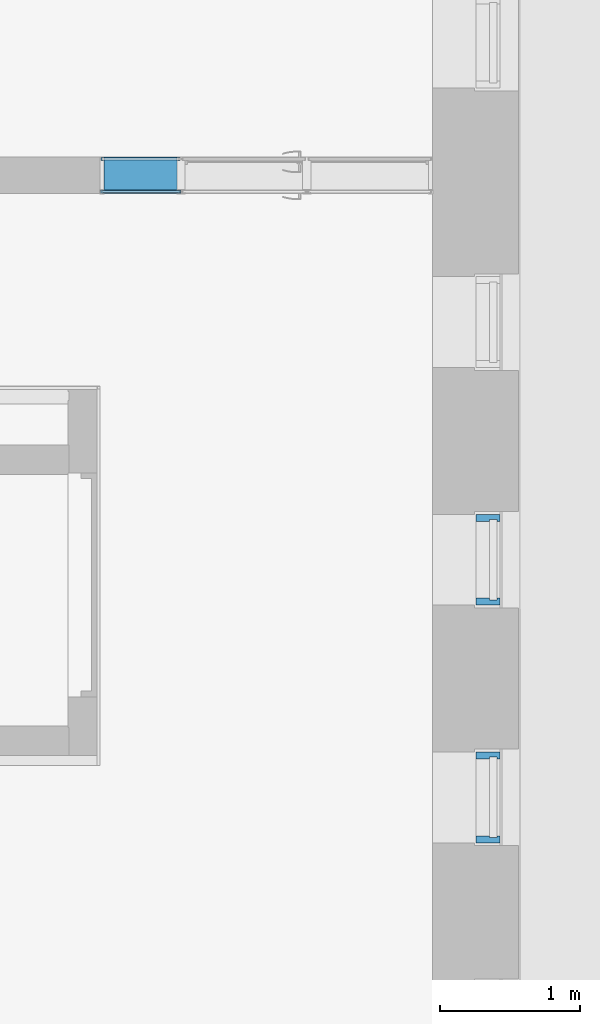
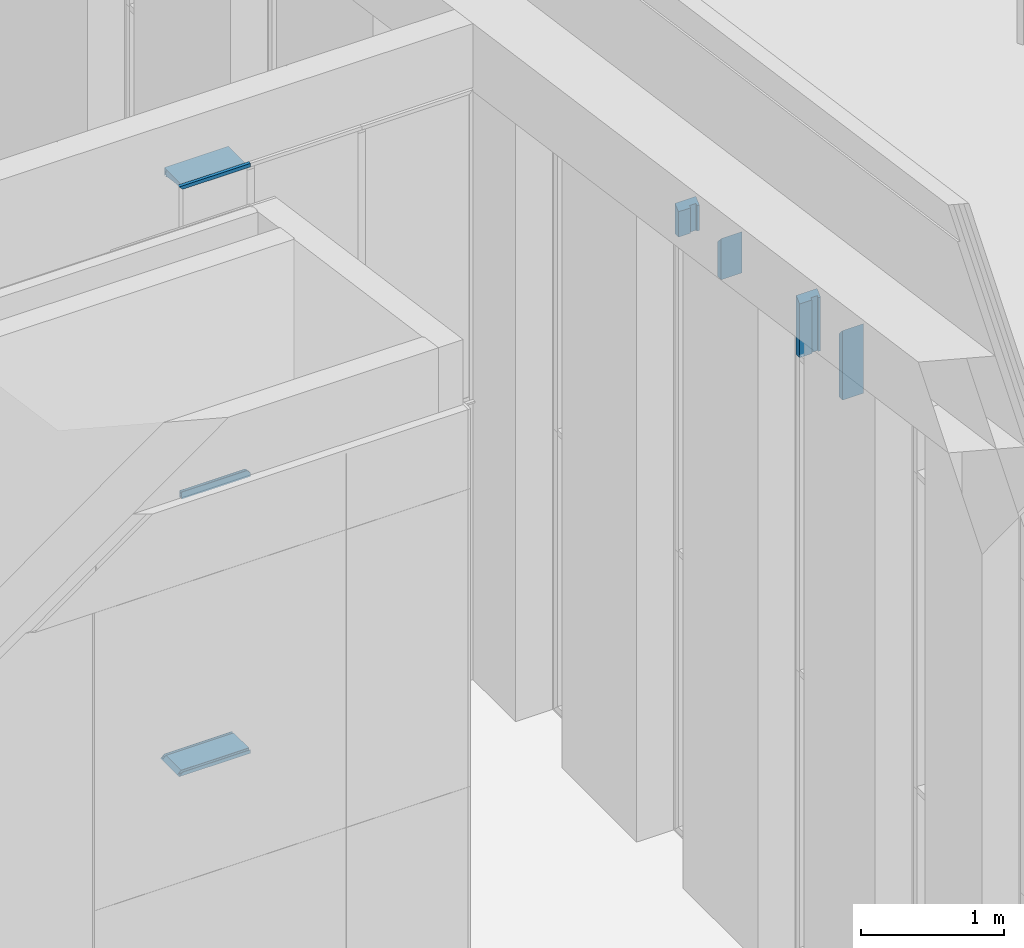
# One storey, part 90 of 246: 9 members, 4 elements without a shape of their own.
"""IFC2X3 building model written with IfcOpenShell, lengths in millimetres."""

from ifc_helpers import new_model, entity, si_unit, converted_unit, derived_unit, money_unit, direction, frame, origin_with_axes, place, context, subcontext, project, spatial, faceted_brep, material, material_list, type_object, element, aggregate, save


model = new_model("IFC2X3")

# Units and contexts
model_context = context("Model", 3, precision=0.01, world=origin_with_axes(), true_north=direction((0.0, 1.0)))
body_context = subcontext(model_context, "Body", "Model", "MODEL_VIEW")
ifc_project = project(units=[si_unit("LENGTHUNIT", "METRE", prefix="MILLI"), si_unit("AREAUNIT", "SQUARE_METRE"), si_unit("VOLUMEUNIT", "CUBIC_METRE"), converted_unit("PLANEANGLEUNIT", "DEGREE", entity("IfcPlaneAngleMeasure", 0.0174532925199), si_unit("PLANEANGLEUNIT", "RADIAN"), dimensions=[0, 0, 0, 0, 0, 0, 0]), si_unit("SOLIDANGLEUNIT", "STERADIAN"), money_unit("EUR"), converted_unit("TIMEUNIT", "Year", entity("IfcTimeMeasure", 31556926.0), si_unit("TIMEUNIT", "SECOND"), dimensions=[0, 0, 1, 0, 0, 0, 0]), si_unit("MASSUNIT", "GRAM", prefix="KILO"), si_unit("THERMODYNAMICTEMPERATUREUNIT", "DEGREE_CELSIUS"), si_unit("LUMINOUSINTENSITYUNIT", "LUMEN"), si_unit("ENERGYUNIT", "JOULE", prefix="MEGA"), derived_unit("THERMALCONDUCTANCEUNIT", [(si_unit("POWERUNIT", "WATT"), 1), (si_unit("LENGTHUNIT", "METRE"), -1), (si_unit("THERMODYNAMICTEMPERATUREUNIT", "KELVIN"), -1)]), derived_unit("SPECIFICHEATCAPACITYUNIT", [(si_unit("ENERGYUNIT", "JOULE"), 1), (si_unit("MASSUNIT", "GRAM", prefix="KILO"), -1), (si_unit("THERMODYNAMICTEMPERATUREUNIT", "KELVIN"), -1)]), derived_unit("MASSDENSITYUNIT", [(si_unit("MASSUNIT", "GRAM", prefix="KILO"), 1), (si_unit("VOLUMEUNIT", "CUBIC_METRE"), -1)])], contexts=[model_context])

# Site, building, storey
site_placement = place(None, origin_with_axes())
site = spatial("IfcSite", under=ifc_project, at=site_placement, Name="L.Koidula tn 11b", CompositionType="ELEMENT")
building_placement = place(site_placement, origin_with_axes())
building = spatial("IfcBuilding", under=site, at=building_placement, Name="Rakvere Riigigümnaasium", CompositionType="ELEMENT")
storey_placement = place(building_placement, origin_with_axes())
storey = spatial("IfcBuildingStorey", under=building, at=storey_placement, Name="1.korrus 0,00", CompositionType="ELEMENT", Elevation=0.0)

# Curtain wall, members
curtain_wall_type = type_object("IfcCurtainWallType", Name="Curtain Wall Type", PredefinedType="NOTDEFINED")
curtain_wall_1_placement = place(storey_placement, frame((47433.9999935, 57020.45466, -7.96066081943e-05), z_axis=(0.0, 0.0, 1.0), x_axis=(1.0, 0.0, 0.0)))
curtain_wall_1 = element("IfcCurtainWall", 1, at=curtain_wall_1_placement, inside=storey, type_object=curtain_wall_type, Name="KLF-07-08")
ifc_material_1 = material(Name="Alumiiniumprofiil (RAL 7021)")
member_type_1 = type_object("IfcMemberType", Name="Boundary Frame 50 x 170", PredefinedType="MULLION")
member_1_placement = place(curtain_wall_1_placement, frame((0.0, -324.999990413, 5100.00007961), z_axis=(0.0, 0.0, 1.0), x_axis=(0.0, 1.0, 0.0)))
member_1 = element("IfcMember", 2, at=member_1_placement, type_object=member_type_1, material=ifc_material_1, Name="KLF-07-79-Profiilid", ObjectType="MULLION", context=body_context, shape_type="Brep", body=[
    faceted_brep([(37.0, 26.0, 553.410045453), (50.0, 26.0, 538.428095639), (50.0, 124.0, 538.428095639), (0.0, 124.0, 596.05097954), (0.0, -46.0, 596.05097954), (50.0, -46.0, 538.428095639), (50.0, -26.0, 538.428095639), (37.0, -26.0, 553.410045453), (37.0, 26.0, -1.52750079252e-06), (50.0, 26.0, -1.52750079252e-06), (50.0, 124.0, -1.52750079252e-06), (0.0, 124.0, -1.52750079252e-06), (0.0, -46.0, -1.52750079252e-06), (50.0, -46.0, -1.52750079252e-06), (50.0, -26.0, -1.52750079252e-06), (37.0, -26.0, -1.52750079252e-06)], [[[0, 1, 2, 3, 4, 5, 6, 7]], [[0, 8, 9, 1]], [[9, 10, 2, 1]], [[10, 11, 3, 2]], [[11, 12, 4, 3]], [[12, 13, 5, 4]], [[6, 5, 13, 14]], [[14, 15, 7, 6]], [[7, 15, 8, 0]], [[8, 15, 14, 13, 12, 11, 10, 9]]]),
])
member_2_placement = place(curtain_wall_1_placement, frame((0.0, 324.99999492, 5603.50833327), z_axis=(0.0, -1.79021235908e-08, -1.0), x_axis=(0.0, -1.0, 1.79021235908e-08)))
member_2 = element("IfcMember", 3, at=member_2_placement, type_object=member_type_1, material=ifc_material_1, Name="KLF-07-81-Profiilid", ObjectType="MULLION", context=body_context, shape_type="Brep", body=[
    faceted_brep([(36.9999909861, 26.0, 503.508254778), (49.9999909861, 26.0, 503.50825501), (49.9999909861, 124.0, 503.50825501), (-9.01386698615e-06, 124.0, 503.508254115), (-9.01386698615e-06, -46.0, 503.508254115), (49.9999909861, -46.0, 503.50825501), (49.9999909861, -26.0, 503.50825501), (36.9999909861, -26.0, 503.508254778), (36.9999994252, 26.0, 32.1053016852), (49.9999992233, 26.0, 43.3855428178), (49.9999992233, 124.0, 43.3855428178), (0.0, 124.0, 0.0), (0.0, -46.0, 0.0), (49.9999992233, -46.0, 43.3855428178), (49.9999992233, -26.0, 43.3855428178), (36.9999994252, -26.0, 32.1053016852)], [[[0, 1, 2, 3, 4, 5, 6, 7]], [[0, 8, 9, 1]], [[9, 10, 2, 1]], [[2, 10, 11, 3]], [[3, 11, 12, 4]], [[4, 12, 13, 5]], [[6, 5, 13, 14]], [[14, 15, 7, 6]], [[7, 15, 8, 0]], [[8, 15, 14, 13, 12, 11, 10, 9]]]),
])
aggregate(curtain_wall_1, [member_1, member_2])

curtain_wall_2_placement = place(storey_placement, frame((47433.9999935, 58720.4546292, -7.96830551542e-05), z_axis=(0.0, 0.0, 1.0), x_axis=(1.0, 0.0, 0.0)))
curtain_wall_2 = element("IfcCurtainWall", 4, at=curtain_wall_2_placement, inside=storey, type_object=curtain_wall_type, Name="KLF-07-09")
member_3_placement = place(curtain_wall_2_placement, frame((0.0, -324.99995475, 5100.00007968), z_axis=(0.0, -9.8127504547e-09, 1.0), x_axis=(0.0, 1.0, 9.8127504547e-09)))
member_3 = element("IfcMember", 5, at=member_3_placement, type_object=member_type_1, material=ifc_material_1, Name="KLF-07-80_Profiilid", ObjectType="MULLION", context=body_context, shape_type="Brep", body=[
    faceted_brep([(37.0000030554, 26.0, 311.375186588), (50.0000029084, 26.0, 296.393236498), (50.0000029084, 124.0, 296.393236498), (3.47387185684e-06, 124.0, 354.016121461), (3.47387185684e-06, -46.0, 354.016121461), (50.0000029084, -46.0, 296.393236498), (50.0000029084, -26.0, 296.393236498), (37.0000030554, -26.0, 311.375186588), (37.0, 26.0, -2.23024709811e-06), (50.0, 26.0, -2.35781261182e-06), (50.0, 124.0, -2.35781261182e-06), (0.0, 124.0, -1.86717485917e-06), (0.0, -46.0, -1.86717485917e-06), (50.0, -46.0, -2.35781261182e-06), (50.0, -26.0, -2.35781261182e-06), (37.0, -26.0, -2.23024709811e-06)], [[[0, 1, 2, 3, 4, 5, 6, 7]], [[0, 8, 9, 1]], [[9, 10, 2, 1]], [[10, 11, 3, 2]], [[11, 12, 4, 3]], [[12, 13, 5, 4]], [[6, 5, 13, 14]], [[14, 15, 7, 6]], [[7, 15, 8, 0]], [[8, 15, 14, 13, 12, 11, 10, 9]]]),
])
member_4_placement = place(curtain_wall_2_placement, frame((0.0, 325.000027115, 5361.47347527), z_axis=(0.0, 5.81871425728e-08, -1.0), x_axis=(0.0, -1.0, -5.81871425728e-08)))
member_4 = element("IfcMember", 6, at=member_4_placement, type_object=member_type_1, material=ifc_material_1, Name="KLF-07-82_Profiilid", ObjectType="MULLION", context=body_context, shape_type="Brep", body=[
    faceted_brep([(37.0000152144, 26.0, 261.47339489), (50.0000152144, 26.0, 261.473394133), (50.0000152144, 124.0, 261.473394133), (1.52143897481e-05, 124.0, 261.473397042), (1.52143897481e-05, -46.0, 261.473397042), (50.0000152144, -46.0, 261.473394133), (50.0000152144, -26.0, 261.473394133), (37.0000152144, -26.0, 261.47339489), (37.0000018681, 26.0, 32.1052964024), (50.0000025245, 26.0, 43.3855356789), (50.0000025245, 124.0, 43.3855356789), (0.0, 124.0, 0.0), (0.0, -46.0, 0.0), (50.0000025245, -46.0, 43.3855356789), (50.0000025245, -26.0, 43.3855356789), (37.0000018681, -26.0, 32.1052964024)], [[[0, 1, 2, 3, 4, 5, 6, 7]], [[0, 8, 9, 1]], [[9, 10, 2, 1]], [[2, 10, 11, 3]], [[3, 11, 12, 4]], [[4, 12, 13, 5]], [[6, 5, 13, 14]], [[14, 15, 7, 6]], [[7, 15, 8, 0]], [[8, 15, 14, 13, 12, 11, 10, 9]]]),
])
aggregate(curtain_wall_2, [member_3, member_4])

curtain_wall_3_placement = place(storey_placement, frame((46459.9999921, 61346.4546496, -4.47035262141e-05), z_axis=(0.0, 0.0, 1.0), x_axis=(1.0, 0.0, 0.0)))
curtain_wall_3 = element("IfcCurtainWall", 7, at=curtain_wall_3_placement, inside=storey, type_object=curtain_wall_type, Name="SKLF-04")
ifc_material_2 = material(Name="Klaasvill")
ifc_material_3 = material(Name="Teras RAL7012")
ifc_material_list_1 = material_list([ifc_material_2, ifc_material_3])
member_type_2 = type_object("IfcMemberType", Name="Siseklaasfassaad-Doubleline-Klaaside vahe-2_60x26 60 x 20", PredefinedType="MULLION")
member_5_placement = place(curtain_wall_3_placement, frame((-1820.66668168, 0.0, 2400.0000447), z_axis=(1.0, 0.0, 0.0), x_axis=(0.0, 0.0, 1.0)))
member_5 = element("IfcMember", 8, at=member_5_placement, type_object=member_type_2, material=ifc_material_list_1, Name="P-SKLF-37-raam", ObjectType="MULLION", context=body_context, shape_type="Brep", body=[
    faceted_brep([(2.00001916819, 3.01614473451, 558.666661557), (8.35001923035, 3.01614428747, 552.316661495), (8.35001923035, 3.01614428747, 0.0), (2.00001916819, 3.01614473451, 0.0), (8.35001923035, -16.999999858, 552.316661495), (2.00001916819, -16.999999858, 558.666661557), (8.35001923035, -16.999999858, 0.0), (2.00001916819, -16.999999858, 0.0)], [[[0, 1, 2, 3]], [[4, 1, 0, 5]], [[1, 4, 6, 2]], [[3, 2, 6, 7]], [[5, 0, 3, 7]], [[4, 5, 7, 6]]]),
    faceted_brep([(28.5126239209, 3.01614444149, 532.154056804), (28.7655837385, 2.03853257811, 531.901096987), (28.7655837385, 2.03853257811, 0.0), (28.5126239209, 3.01614444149, 0.0), (28.4955493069, 1.03075035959, 532.171131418), (24.7344548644, 2.03853257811, 535.932225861), (25.004489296, 1.03075035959, 535.662191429), (25.742237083, 0.293002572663, 534.924443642), (26.7500193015, 0.0229681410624, 533.916661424), (27.75780152, 0.293002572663, 532.908879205), (28.4955493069, 1.03075035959, 0.0), (25.742237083, 0.293002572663, 0.0), (25.004489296, 1.03075035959, 0.0), (24.7344548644, 2.03853257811, 0.0), (27.75780152, 0.293002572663, 0.0), (26.7500193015, 0.0229681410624, 0.0)], [[[0, 1, 2, 3]], [[4, 1, 0, 5, 6, 7, 8, 9]], [[1, 4, 10, 2]], [[11, 12, 13, 3, 2, 10, 14, 15]], [[5, 0, 3, 13]], [[6, 5, 13, 12]], [[7, 6, 12, 11]], [[8, 7, 11, 15]], [[9, 8, 15, 14]], [[4, 9, 14, 10]]]),
    faceted_brep([(-8.35001923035, -16.999999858, 0.0), (-2.00001916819, -16.999999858, 0.0), (-2.00001916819, -16.999999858, 560.666680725), (-8.35001923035, -16.999999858, 560.666680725), (-8.35001923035, 3.01614428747, 0.0), (-2.00001916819, 3.01614428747, 0.0), (-2.00001916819, 3.01614428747, 560.666680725), (-8.35001923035, 3.01614428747, 560.666680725)], [[[0, 1, 2, 3]], [[0, 4, 5, 1]], [[1, 5, 6, 2]], [[3, 2, 6, 7]], [[4, 0, 3, 7]], [[5, 4, 7, 6]]]),
    faceted_brep([(-28.5126239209, 3.01614444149, 0.0), (-28.4955493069, 1.03075035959, 0.0), (-28.4955493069, 1.03075035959, 560.666680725), (-28.5126239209, 3.01614444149, 560.666680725), (-24.987414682, 3.01614444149, 0.0), (-24.7344548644, 2.03853257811, 0.0), (-25.004489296, 1.03075035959, 0.0), (-25.742237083, 0.293002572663, 0.0), (-26.7500193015, 0.0229681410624, 0.0), (-27.75780152, 0.293002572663, 0.0), (-27.75780152, 0.293002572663, 560.666680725), (-26.7500193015, 0.0229681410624, 560.666680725), (-25.742237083, 0.293002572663, 560.666680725), (-25.004489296, 1.03075035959, 560.666680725), (-24.7344548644, 2.03853257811, 560.666680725), (-24.987414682, 3.01614444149, 560.666680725)], [[[0, 1, 2, 3]], [[0, 4, 5, 6, 7, 8, 9, 1]], [[1, 9, 10, 2]], [[3, 2, 10, 11, 12, 13, 14, 15]], [[4, 0, 3, 15]], [[5, 4, 15, 14]], [[6, 5, 14, 13]], [[7, 6, 13, 12]], [[8, 7, 12, 11]], [[9, 8, 11, 10]]]),
    faceted_brep([(0.0, 5.9999997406, 560.666680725), (30.0000193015, 5.9999997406, 530.666661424), (30.0000193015, 5.9999997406, 0.0), (0.0, 5.9999997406, 0.0), (30.0000193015, 3.01614473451, 530.666661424), (0.0, -20.0, 560.666680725), (30.0000193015, -20.0, 530.666661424), (30.0000193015, -16.999999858, 530.666661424), (8.35001923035, -16.999999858, 552.316661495), (2.00001916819, -16.999999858, 558.666661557), (2.00001916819, 3.01614473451, 558.666661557), (8.35001923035, 3.01614428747, 552.316661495), (24.987414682, 3.01614444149, 535.679266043), (28.5126239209, 3.01614444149, 532.154056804), (30.0000193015, 3.01614473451, 0.0), (30.0000193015, -16.999999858, 0.0), (30.0000193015, -20.0, 0.0), (0.0, -20.0, 0.0), (28.5126239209, 3.01614444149, 0.0), (24.987414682, 3.01614444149, 0.0), (8.35001923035, 3.01614428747, 0.0), (2.00001916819, 3.01614473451, 0.0), (2.00001916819, -16.999999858, 0.0), (8.35001923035, -16.999999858, 0.0)], [[[0, 1, 2, 3]], [[4, 1, 0, 5, 6, 7, 8, 9, 10, 11, 12, 13]], [[1, 4, 14, 2]], [[15, 16, 17, 3, 2, 14, 18, 19, 20, 21, 22, 23]], [[5, 0, 3, 17]], [[6, 5, 17, 16]], [[7, 6, 16, 15]], [[8, 7, 15, 23]], [[9, 8, 23, 22]], [[10, 9, 22, 21]], [[11, 10, 21, 20]], [[12, 11, 20, 19]], [[13, 12, 19, 18]], [[4, 13, 18, 14]]]),
    faceted_brep([(0.0, -20.0, 0.0), (0.0, 6.0, 0.0), (0.0, 6.0, 560.666680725), (0.0, -20.0, 560.666680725), (-30.0000193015, -20.0, 0.0), (-30.0000193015, -17.0, 0.0), (-8.35001923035, -16.999999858, 0.0), (-2.00001930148, -17.0, 0.0), (-2.00001930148, 3.01614444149, 0.0), (-8.35001923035, 3.01614428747, 0.0), (-24.987414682, 3.01614444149, 0.0), (-28.5126239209, 3.01614444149, 0.0), (-30.0000193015, 3.01614444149, 0.0), (-30.0000193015, 6.0, 0.0), (-30.0000193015, 6.0, 560.666680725), (-30.0000193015, 3.01614444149, 560.666680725), (-28.5126239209, 3.01614444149, 560.666680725), (-24.987414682, 3.01614444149, 560.666680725), (-8.35001923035, 3.01614428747, 560.666680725), (-2.00001930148, 3.01614444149, 560.666680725), (-2.00001930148, -17.0, 560.666680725), (-8.35001923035, -16.999999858, 560.666680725), (-30.0000193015, -17.0, 560.666680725), (-30.0000193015, -20.0, 560.666680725)], [[[0, 1, 2, 3]], [[0, 4, 5, 6, 7, 8, 9, 10, 11, 12, 13, 1]], [[1, 13, 14, 2]], [[3, 2, 14, 15, 16, 17, 18, 19, 20, 21, 22, 23]], [[4, 0, 3, 23]], [[5, 4, 23, 22]], [[6, 5, 22, 21]], [[7, 6, 21, 20]], [[8, 7, 20, 19]], [[9, 8, 19, 18]], [[10, 9, 18, 17]], [[11, 10, 17, 16]], [[12, 11, 16, 15]], [[13, 12, 15, 14]]]),
])
member_type_3 = type_object("IfcMemberType", Name="Boundary Frame 30 x 15", PredefinedType="MULLION")
member_6_placement = place(curtain_wall_3_placement, frame((-1840.00000095, 0.0, 5050.0000447), z_axis=(1.0, 0.0, 0.0), x_axis=(0.0, 0.0, 1.0)))
member_6 = element("IfcMember", 9, at=member_6_placement, type_object=member_type_3, material=ifc_material_list_1, Name="P-SKLF-41-raam", ObjectType="MULLION", context=body_context, shape_type="Brep", body=[
    faceted_brep([(-8.35001923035, -16.999999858, 8.35001923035), (-2.00001916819, -16.999999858, 2.00001916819), (-2.00001916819, -16.999999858, 580.0), (-8.35001923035, -16.999999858, 580.0), (-8.35001923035, 3.01614428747, 8.35001923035), (-2.00001916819, 3.01614428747, 2.00001916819), (-2.00001916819, 3.01614428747, 580.0), (-8.35001923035, 3.01614428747, 580.0)], [[[0, 1, 2, 3]], [[1, 0, 4, 5]], [[1, 5, 6, 2]], [[2, 6, 7, 3]], [[4, 0, 3, 7]], [[5, 4, 7, 6]]]),
    faceted_brep([(-25.004489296, 1.03075035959, 25.004489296), (-24.987414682, 3.01614444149, 24.987414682), (-24.987414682, 3.01614444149, 580.0), (-25.004489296, 1.03075035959, 580.0), (-25.742237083, 0.293002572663, 25.742237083), (-26.7500193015, 0.0229681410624, 26.7500193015), (-27.75780152, 0.293002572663, 27.75780152), (-28.4955493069, 1.03075035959, 28.4955493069), (-28.7655837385, 2.03853257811, 28.7655837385), (-28.5126239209, 3.01614444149, 28.5126239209), (-28.5126239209, 3.01614444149, 580.0), (-28.7655837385, 2.03853257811, 580.0), (-28.4955493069, 1.03075035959, 580.0), (-27.75780152, 0.293002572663, 580.0), (-26.7500193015, 0.0229681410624, 580.0), (-25.742237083, 0.293002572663, 580.0)], [[[0, 1, 2, 3]], [[1, 0, 4, 5, 6, 7, 8, 9]], [[1, 9, 10, 2]], [[2, 10, 11, 12, 13, 14, 15, 3]], [[4, 0, 3, 15]], [[5, 4, 15, 14]], [[6, 5, 14, 13]], [[7, 6, 13, 12]], [[8, 7, 12, 11]], [[9, 8, 11, 10]]]),
    faceted_brep([(-30.0000193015, -20.0, 30.0000193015), (0.0, -20.0, 0.0), (0.0, -20.0, 580.0), (-30.0000193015, -20.0, 580.0), (-30.0000193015, -17.0, 30.0000193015), (-8.35001923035, -16.999999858, 8.35001923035), (-2.00001930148, -17.0, 2.00001930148), (-2.00001930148, 3.01614444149, 2.00001930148), (-8.35001923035, 3.01614428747, 8.35001923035), (-24.987414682, 3.01614444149, 24.987414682), (-28.5126239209, 3.01614444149, 28.5126239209), (-30.0000193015, 3.01614444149, 30.0000193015), (-30.0000193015, 6.0, 30.0000193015), (0.0, 6.0, 0.0), (0.0, 6.0, 580.0), (-30.0000193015, 6.0, 580.0), (-30.0000193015, 3.01614444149, 580.0), (-28.5126239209, 3.01614444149, 580.0), (-24.987414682, 3.01614444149, 580.0), (-8.35001923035, 3.01614428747, 580.0), (-2.00001930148, 3.01614444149, 580.0), (-2.00001930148, -17.0, 580.0), (-8.35001923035, -16.999999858, 580.0), (-30.0000193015, -17.0, 580.0)], [[[0, 1, 2, 3]], [[1, 0, 4, 5, 6, 7, 8, 9, 10, 11, 12, 13]], [[1, 13, 14, 2]], [[2, 14, 15, 16, 17, 18, 19, 20, 21, 22, 23, 3]], [[4, 0, 3, 23]], [[5, 4, 23, 22]], [[6, 5, 22, 21]], [[7, 6, 21, 20]], [[8, 7, 20, 19]], [[9, 8, 19, 18]], [[10, 9, 18, 17]], [[11, 10, 17, 16]], [[12, 11, 16, 15]], [[13, 12, 15, 14]]]),
])
member_7_placement = place(curtain_wall_3_placement, frame((-1840.00000095, 0.0, 0.0), z_axis=(1.0, 0.0, 0.0), x_axis=(0.0, 0.0, 1.0)))
member_7 = element("IfcMember", 10, at=member_7_placement, type_object=member_type_3, material=ifc_material_list_1, Name="P-SKLF-34-raam", ObjectType="MULLION", context=body_context, shape_type="Brep", body=[
    faceted_brep([(8.35001923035, -16.999999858, 8.35001923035), (8.35001923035, -16.999999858, 580.000014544), (2.00001916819, -16.999999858, 580.000014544), (2.00001916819, -16.999999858, 2.00001916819), (8.35001923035, 3.01614428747, 8.35001923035), (8.35001923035, 3.01614428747, 580.000014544), (2.00001916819, 3.01614428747, 580.000014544), (2.00001916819, 3.01614428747, 2.00001916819)], [[[0, 1, 2, 3]], [[4, 5, 1, 0]], [[2, 1, 5, 6]], [[3, 2, 6, 7]], [[3, 7, 4, 0]], [[7, 6, 5, 4]]]),
    faceted_brep([(25.004489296, 1.03075035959, 25.004489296), (25.004489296, 1.03075035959, 580.000014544), (24.987414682, 3.01614444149, 580.000014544), (24.987414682, 3.01614444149, 24.987414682), (25.742237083, 0.293002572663, 25.742237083), (25.742237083, 0.293002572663, 580.000014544), (26.7500193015, 0.0229681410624, 580.000014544), (27.75780152, 0.293002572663, 580.000014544), (28.4955493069, 1.03075035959, 580.000014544), (28.7655837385, 2.03853257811, 580.000014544), (28.5126239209, 3.01614444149, 580.000014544), (28.5126239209, 3.01614444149, 28.5126239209), (28.7655837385, 2.03853257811, 28.7655837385), (28.4955493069, 1.03075035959, 28.4955493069), (27.75780152, 0.293002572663, 27.75780152), (26.7500193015, 0.0229681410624, 26.7500193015)], [[[0, 1, 2, 3]], [[4, 5, 1, 0]], [[2, 1, 5, 6, 7, 8, 9, 10]], [[3, 2, 10, 11]], [[3, 11, 12, 13, 14, 15, 4, 0]], [[15, 6, 5, 4]], [[14, 7, 6, 15]], [[13, 8, 7, 14]], [[12, 9, 8, 13]], [[11, 10, 9, 12]]]),
    faceted_brep([(30.0000193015, -20.0, 30.0000193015), (30.0000193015, -20.0, 580.000014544), (0.0, -20.0, 580.000014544), (0.0, -20.0, 0.0), (30.0000193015, -17.0, 30.0000193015), (30.0000193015, -17.0, 580.000014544), (8.35001923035, -16.999999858, 580.000014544), (2.00001930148, -17.0, 580.000014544), (2.00001930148, 3.01614444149, 580.000014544), (8.35001923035, 3.01614428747, 580.000014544), (24.987414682, 3.01614444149, 580.000014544), (28.5126239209, 3.01614444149, 580.000014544), (30.0000193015, 3.01614444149, 580.000014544), (30.0000193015, 6.0, 580.000014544), (0.0, 6.0, 580.000014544), (0.0, 6.0, 0.0), (30.0000193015, 6.0, 30.0000193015), (30.0000193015, 3.01614444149, 30.0000193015), (28.5126239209, 3.01614444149, 28.5126239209), (24.987414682, 3.01614444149, 24.987414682), (8.35001923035, 3.01614428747, 8.35001923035), (2.00001930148, 3.01614444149, 2.00001930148), (2.00001930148, -17.0, 2.00001930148), (8.35001923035, -16.999999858, 8.35001923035)], [[[0, 1, 2, 3]], [[4, 5, 1, 0]], [[2, 1, 5, 6, 7, 8, 9, 10, 11, 12, 13, 14]], [[3, 2, 14, 15]], [[3, 15, 16, 17, 18, 19, 20, 21, 22, 23, 4, 0]], [[23, 6, 5, 4]], [[22, 7, 6, 23]], [[21, 8, 7, 22]], [[20, 9, 8, 21]], [[19, 10, 9, 20]], [[18, 11, 10, 19]], [[17, 12, 11, 18]], [[16, 13, 12, 17]], [[15, 14, 13, 16]]]),
])
aggregate(curtain_wall_3, [member_5, member_6, member_7])

curtain_wall_4_placement = place(storey_placement, frame((46549.9999923, 61580.5357918, -4.47035262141e-05), z_axis=(0.0, 0.0, 1.0), x_axis=(1.0, 0.0, 0.0)))
curtain_wall_4 = element("IfcCurtainWall", 11, at=curtain_wall_4_placement, inside=storey, type_object=curtain_wall_type, Name="SKLF-05")
ifc_material_4 = material(Name="Puit")
ifc_material_list_2 = material_list([ifc_material_4, ifc_material_2, ifc_material_3])
member_type_4 = type_object("IfcMemberType", Name="Siseklaasfassaad - Ylaraam-kaldus8,1 67 x 14", PredefinedType="MULLION")
member_8_placement = place(curtain_wall_4_placement, frame((-1930.00000119, 0.0, 5050.0000447), z_axis=(1.0, 0.0, 0.0), x_axis=(0.0, 0.0, 1.0)))
member_8 = element("IfcMember", 12, at=member_8_placement, type_object=member_type_4, material=ifc_material_list_2, Name="P-SKLF-88-raam", ObjectType="MULLION", context=body_context, shape_type="Brep", body=[
    faceted_brep([(0.0, 214.0, 30.0000193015), (-30.0000198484, 214.0, 30.0000193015), (-30.0000198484, 214.0, 549.999980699), (0.0, 214.0, 549.999980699), (0.0, 5.99999883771, 30.0000193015), (-37.0034781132, 5.99999883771, 30.0000193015), (-59.602804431, 5.99999883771, 30.0000193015), (-59.602804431, 5.99999883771, 549.999980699), (-37.0034781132, 5.99999883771, 549.999980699), (0.0, 5.99999883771, 549.999980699)], [[[0, 1, 2, 3]], [[1, 0, 4, 5, 6]], [[1, 6, 7, 2]], [[2, 7, 8, 9, 3]], [[4, 0, 3, 9]], [[5, 4, 9, 8]], [[6, 5, 8, 7]]]),
    faceted_brep([(-45.3534990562, -16.9999998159, 30.0000193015), (-39.0034989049, -16.9999998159, 30.0000193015), (-39.0034989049, -16.9999998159, 549.999980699), (-45.3534990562, -16.9999998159, 549.999980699), (-45.3534990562, 3.0161446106, 30.0000193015), (-39.0034989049, 3.0161446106, 30.0000193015), (-39.0034989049, 3.0161446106, 549.999980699), (-45.3534990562, 3.0161446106, 549.999980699)], [[[0, 1, 2, 3]], [[1, 0, 4, 5]], [[1, 5, 6, 2]], [[2, 6, 7, 3]], [[4, 0, 3, 7]], [[5, 4, 7, 6]]]),
    faceted_brep([(-61.7379345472, 2.03853257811, 30.0000193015), (-65.5161036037, 3.01614444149, 30.0000193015), (-65.5161036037, 3.01614444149, 549.999980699), (-61.7379345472, 2.03853257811, 549.999980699), (-62.0079689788, 1.03075035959, 30.0000193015), (-62.7457167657, 0.293002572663, 30.0000193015), (-63.7534989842, 0.0229681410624, 30.0000193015), (-64.7612812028, 0.293002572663, 30.0000193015), (-65.4990289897, 1.03075035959, 30.0000193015), (-65.7690634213, 2.03853257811, 30.0000193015), (-65.7690634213, 2.03853257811, 549.999980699), (-65.4990289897, 1.03075035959, 549.999980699), (-64.7612812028, 0.293002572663, 549.999980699), (-63.7534989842, 0.0229681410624, 549.999980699), (-62.7457167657, 0.293002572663, 549.999980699), (-62.0079689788, 1.03075035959, 549.999980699)], [[[0, 1, 2, 3]], [[1, 0, 4, 5, 6, 7, 8, 9]], [[1, 9, 10, 2]], [[2, 10, 11, 12, 13, 14, 15, 3]], [[4, 0, 3, 15]], [[5, 4, 15, 14]], [[6, 5, 14, 13]], [[7, 6, 13, 12]], [[8, 7, 12, 11]], [[9, 8, 11, 10]]]),
    faceted_brep([(-37.0034792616, -20.0, 30.0000193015), (-37.0034792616, 6.00000005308, 30.0000193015), (-37.0034792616, 6.00000005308, 549.999980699), (-37.0034792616, -20.0, 549.999980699), (-67.0034989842, -20.0, 30.0000193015), (-67.0034989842, -16.9999997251, 30.0000193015), (-45.3534990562, -16.9999998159, 30.0000193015), (-39.0034990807, -16.9999997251, 30.0000193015), (-39.0034990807, 3.01614440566, 30.0000193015), (-45.3534990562, 3.0161446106, 30.0000193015), (-61.9908943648, 3.01614444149, 30.0000193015), (-65.5161036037, 3.01614444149, 30.0000193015), (-67.0034989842, 3.01614440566, 30.0000193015), (-67.0034989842, 6.00000005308, 30.0000193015), (-59.602804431, 5.99999883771, 30.0000193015), (-59.602804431, 5.99999883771, 549.999980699), (-67.0034989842, 6.00000005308, 549.999980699), (-67.0034989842, 3.01614440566, 549.999980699), (-65.5161036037, 3.01614444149, 549.999980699), (-61.9908943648, 3.01614444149, 549.999980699), (-45.3534990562, 3.0161446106, 549.999980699), (-39.0034990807, 3.01614440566, 549.999980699), (-39.0034990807, -16.9999997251, 549.999980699), (-45.3534990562, -16.9999998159, 549.999980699), (-67.0034989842, -16.9999997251, 549.999980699), (-67.0034989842, -20.0, 549.999980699)], [[[0, 1, 2, 3]], [[1, 0, 4, 5, 6, 7, 8, 9, 10, 11, 12, 13, 14]], [[1, 14, 15, 2]], [[2, 15, 16, 17, 18, 19, 20, 21, 22, 23, 24, 25, 3]], [[4, 0, 3, 25]], [[5, 4, 25, 24]], [[6, 5, 24, 23]], [[7, 6, 23, 22]], [[8, 7, 22, 21]], [[9, 8, 21, 20]], [[10, 9, 20, 19]], [[11, 10, 19, 18]], [[12, 11, 18, 17]], [[13, 12, 17, 16]], [[14, 13, 16, 15]]]),
    faceted_brep([(0.0, -20.0, 30.0000193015), (0.0, 4.01614429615, 30.0000193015), (0.0, 4.01614429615, 549.999980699), (0.0, -20.0, 549.999980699), (-37.0034796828, -20.0, 30.0000193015), (-37.0034796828, 6.00000022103, 30.0000193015), (0.0, 6.00000022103, 30.0000193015), (-2.00000022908, 4.01614429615, 30.0000193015), (-35.0034601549, 4.01614429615, 30.0000193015), (-35.0034601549, -17.9999997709, 30.0000193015), (-2.00000022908, -17.9999997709, 30.0000193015), (0.0, 6.00000022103, 549.999980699), (-37.0034796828, 6.00000022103, 549.999980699), (-37.0034796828, -20.0, 549.999980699), (-2.00000022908, 4.01614429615, 549.999980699), (-2.00000022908, -17.9999997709, 549.999980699), (-35.0034601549, -17.9999997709, 549.999980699), (-35.0034601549, 4.01614429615, 549.999980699)], [[[0, 1, 2, 3]], [[1, 0, 4, 5, 6], [7, 8, 9, 10]], [[1, 6, 11, 2]], [[2, 11, 12, 13, 3], [14, 15, 16, 17]], [[4, 0, 3, 13]], [[5, 4, 13, 12]], [[6, 5, 12, 11]], [[8, 7, 14, 17]], [[9, 8, 17, 16]], [[10, 9, 16, 15]], [[7, 10, 15, 14]]]),
])
member_type_5 = type_object("IfcMemberType", Name="Boundary Frame 30 x 14", PredefinedType="MULLION")
member_9_placement = place(curtain_wall_4_placement, frame((-1930.00000119, 0.0, 0.0), z_axis=(1.0, 0.0, 0.0), x_axis=(0.0, 0.0, 1.0)))
member_9 = element("IfcMember", 13, at=member_9_placement, type_object=member_type_5, material=ifc_material_list_2, Name="P-SKLF-81-raam", ObjectType="MULLION", context=body_context, shape_type="Brep", body=[
    faceted_brep([(0.0, 5.99999883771, 0.0), (0.0, 5.99999883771, 580.000014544), (0.0, 214.0, 580.000014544), (0.0, 214.0, 0.0), (30.0000198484, 5.99999883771, 30.0000198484), (30.0000198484, 5.99999883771, 580.000014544), (30.0000198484, 214.0, 580.000014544), (30.0000198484, 214.0, 30.0000198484)], [[[0, 1, 2, 3]], [[4, 5, 1, 0]], [[2, 1, 5, 6]], [[3, 2, 6, 7]], [[3, 7, 4, 0]], [[7, 6, 5, 4]]]),
    faceted_brep([(2.00001916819, -16.999999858, 2.00001916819), (2.00001916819, -16.999999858, 580.000014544), (2.00001916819, 3.01614428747, 580.000014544), (2.00001916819, 3.01614428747, 2.00001916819), (8.35001923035, -16.999999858, 8.35001923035), (8.35001923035, -16.999999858, 580.000014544), (8.35001923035, 3.01614428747, 580.000014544), (8.35001923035, 3.01614428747, 8.35001923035)], [[[0, 1, 2, 3]], [[4, 5, 1, 0]], [[2, 1, 5, 6]], [[3, 2, 6, 7]], [[3, 7, 4, 0]], [[7, 6, 5, 4]]]),
    faceted_brep([(25.004489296, 1.03075035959, 25.004489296), (25.004489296, 1.03075035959, 580.000014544), (24.987414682, 3.01614444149, 580.000014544), (24.987414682, 3.01614444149, 24.987414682), (25.742237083, 0.293002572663, 25.742237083), (25.742237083, 0.293002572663, 580.000014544), (26.7500193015, 0.0229681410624, 580.000014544), (27.75780152, 0.293002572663, 580.000014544), (28.4955493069, 1.03075035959, 580.000014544), (28.7655837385, 2.03853257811, 580.000014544), (28.5126239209, 3.01614444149, 580.000014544), (28.5126239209, 3.01614444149, 28.5126239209), (28.7655837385, 2.03853257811, 28.7655837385), (28.4955493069, 1.03075035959, 28.4955493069), (27.75780152, 0.293002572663, 27.75780152), (26.7500193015, 0.0229681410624, 26.7500193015)], [[[0, 1, 2, 3]], [[4, 5, 1, 0]], [[2, 1, 5, 6, 7, 8, 9, 10]], [[3, 2, 10, 11]], [[3, 11, 12, 13, 14, 15, 4, 0]], [[15, 6, 5, 4]], [[14, 7, 6, 15]], [[13, 8, 7, 14]], [[12, 9, 8, 13]], [[11, 10, 9, 12]]]),
    faceted_brep([(30.0000193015, -20.0, 30.0000193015), (30.0000193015, -20.0, 580.000014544), (0.0, -20.0, 580.000014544), (0.0, -20.0, 0.0), (30.0000193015, -17.0, 30.0000193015), (30.0000193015, -17.0, 580.000014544), (8.35001923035, -16.999999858, 580.000014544), (2.00001930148, -17.0, 580.000014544), (2.00001930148, 3.01614444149, 580.000014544), (8.35001923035, 3.01614428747, 580.000014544), (24.987414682, 3.01614444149, 580.000014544), (28.5126239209, 3.01614444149, 580.000014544), (30.0000193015, 3.01614444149, 580.000014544), (30.0000193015, 6.0, 580.000014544), (0.0, 6.0, 580.000014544), (0.0, 6.0, 0.0), (30.0000193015, 6.0, 30.0000193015), (30.0000193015, 3.01614444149, 30.0000193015), (28.5126239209, 3.01614444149, 28.5126239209), (24.987414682, 3.01614444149, 24.987414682), (8.35001923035, 3.01614428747, 8.35001923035), (2.00001930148, 3.01614444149, 2.00001930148), (2.00001930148, -17.0, 2.00001930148), (8.35001923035, -16.999999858, 8.35001923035)], [[[0, 1, 2, 3]], [[4, 5, 1, 0]], [[2, 1, 5, 6, 7, 8, 9, 10, 11, 12, 13, 14]], [[3, 2, 14, 15]], [[3, 15, 16, 17, 18, 19, 20, 21, 22, 23, 4, 0]], [[23, 6, 5, 4]], [[22, 7, 6, 23]], [[21, 8, 7, 22]], [[20, 9, 8, 21]], [[19, 10, 9, 20]], [[18, 11, 10, 19]], [[17, 12, 11, 18]], [[16, 13, 12, 17]], [[15, 14, 13, 16]]]),
])
aggregate(curtain_wall_4, [member_8, member_9])

save(model, "model.ifc")
